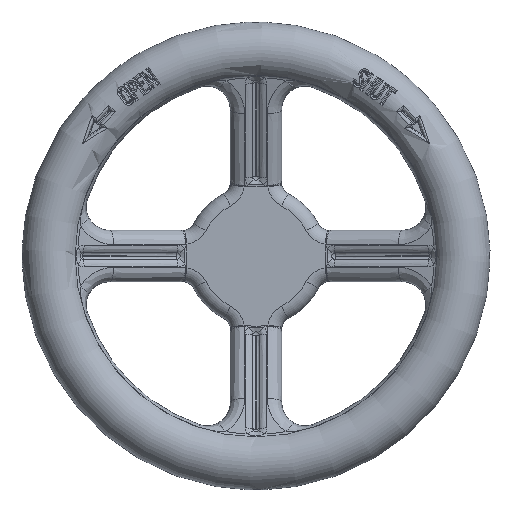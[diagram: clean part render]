
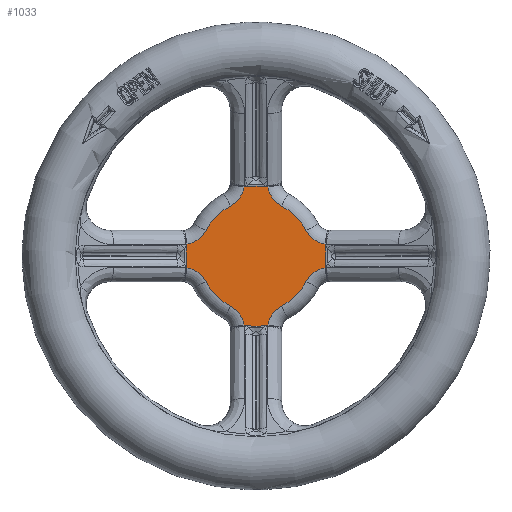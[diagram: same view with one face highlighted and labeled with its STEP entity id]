
A CAD part, top view. The second image highlights one B-rep face of the part: STEP entity #1033.
In plain terms, the highlighted planar face has unit normal (0, 0, 1).
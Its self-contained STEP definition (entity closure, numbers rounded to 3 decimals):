
#1033 = ADVANCED_FACE( '', ( #2393 ), #2394, .T. );
#2393 = FACE_OUTER_BOUND( '', #18667, .T. );
#2394 = PLANE( '', #18668 );
#18667 = EDGE_LOOP( '', ( #41906, #41907, #41908, #41909, #41910, #41911, #41912, #41913, #41914, #41915, #41916, #41917, #41918, #41919, #41920, #41921 ) );
#18668 = AXIS2_PLACEMENT_3D( '', #41922, #41923, #41924 );
#41906 = ORIENTED_EDGE( '', *, *, #45457, .T. );
#41907 = ORIENTED_EDGE( '', *, *, #45369, .T. );
#41908 = ORIENTED_EDGE( '', *, *, #44575, .T. );
#41909 = ORIENTED_EDGE( '', *, *, #44952, .T. );
#41910 = ORIENTED_EDGE( '', *, *, #45458, .T. );
#41911 = ORIENTED_EDGE( '', *, *, #45459, .T. );
#41912 = ORIENTED_EDGE( '', *, *, #44747, .T. );
#41913 = ORIENTED_EDGE( '', *, *, #44502, .T. );
#41914 = ORIENTED_EDGE( '', *, *, #45460, .T. );
#41915 = ORIENTED_EDGE( '', *, *, #45461, .T. );
#41916 = ORIENTED_EDGE( '', *, *, #45462, .T. );
#41917 = ORIENTED_EDGE( '', *, *, #45463, .T. );
#41918 = ORIENTED_EDGE( '', *, *, #45464, .T. );
#41919 = ORIENTED_EDGE( '', *, *, #45465, .T. );
#41920 = ORIENTED_EDGE( '', *, *, #45466, .T. );
#41921 = ORIENTED_EDGE( '', *, *, #45349, .T. );
#41922 = CARTESIAN_POINT( '', ( 0., 0., 2. ) );
#41923 = DIRECTION( '', ( 0., 0., 1. ) );
#41924 = DIRECTION( '', ( -1., 0., 0. ) );
#44502 = EDGE_CURVE( '', #46625, #46630, #46632, .F. );
#44575 = EDGE_CURVE( '', #46765, #46763, #46766, .T. );
#44747 = EDGE_CURVE( '', #47052, #46625, #47055, .T. );
#44952 = EDGE_CURVE( '', #46763, #47382, #47384, .F. );
#45349 = EDGE_CURVE( '', #47970, #47403, #47974, .F. );
#45369 = EDGE_CURVE( '', #48000, #46765, #48001, .F. );
#45457 = EDGE_CURVE( '', #47403, #48000, #48123, .T. );
#45458 = EDGE_CURVE( '', #47382, #48124, #48125, .T. );
#45459 = EDGE_CURVE( '', #48124, #47052, #48126, .F. );
#45460 = EDGE_CURVE( '', #46630, #47451, #48127, .T. );
#45461 = EDGE_CURVE( '', #47451, #48128, #48129, .F. );
#45462 = EDGE_CURVE( '', #48128, #48130, #48131, .T. );
#45463 = EDGE_CURVE( '', #48130, #48132, #48133, .F. );
#45464 = EDGE_CURVE( '', #48132, #48134, #48135, .T. );
#45465 = EDGE_CURVE( '', #48134, #48136, #48137, .F. );
#45466 = EDGE_CURVE( '', #48136, #47970, #48138, .T. );
#46625 = VERTEX_POINT( '', #51447 );
#46630 = VERTEX_POINT( '', #51452 );
#46632 = CIRCLE( '', #51454, 11. );
#46763 = VERTEX_POINT( '', #52472 );
#46765 = VERTEX_POINT( '', #52474 );
#46766 = CIRCLE( '', #52475, 24. );
#47052 = VERTEX_POINT( '', #54922 );
#47055 = CIRCLE( '', #54925, 24. );
#47382 = VERTEX_POINT( '', #57385 );
#47384 = CIRCLE( '', #57387, 11. );
#47403 = VERTEX_POINT( '', #57530 );
#47451 = VERTEX_POINT( '', #57780 );
#47970 = VERTEX_POINT( '', #61440 );
#47974 = CIRCLE( '', #61444, 11. );
#48000 = VERTEX_POINT( '', #61572 );
#48001 = CIRCLE( '', #61573, 11. );
#48123 = CIRCLE( '', #62229, 29.95 );
#48124 = VERTEX_POINT( '', #62230 );
#48125 = CIRCLE( '', #62231, 29.95 );
#48126 = CIRCLE( '', #62232, 11. );
#48127 = CIRCLE( '', #62233, 29.95 );
#48128 = VERTEX_POINT( '', #62234 );
#48129 = CIRCLE( '', #62235, 11. );
#48130 = VERTEX_POINT( '', #62236 );
#48131 = CIRCLE( '', #62237, 24. );
#48132 = VERTEX_POINT( '', #62238 );
#48133 = CIRCLE( '', #62239, 11. );
#48134 = VERTEX_POINT( '', #62240 );
#48135 = CIRCLE( '', #62241, 29.95 );
#48136 = VERTEX_POINT( '', #62242 );
#48137 = CIRCLE( '', #62243, 11. );
#48138 = CIRCLE( '', #62244, 24. );
#51447 = CARTESIAN_POINT( '', ( -21.345, 10.971, 2. ) );
#51452 = CARTESIAN_POINT( '', ( -29.509, 5.12, 2. ) );
#51454 = AXIS2_PLACEMENT_3D( '', #67929, #67930, #67931 );
#52472 = CARTESIAN_POINT( '', ( 10.971, 21.345, 2. ) );
#52474 = CARTESIAN_POINT( '', ( 21.345, 10.971, 2. ) );
#52475 = AXIS2_PLACEMENT_3D( '', #67998, #67999, #68000 );
#54922 = CARTESIAN_POINT( '', ( -10.971, 21.345, 2. ) );
#54925 = AXIS2_PLACEMENT_3D( '', #68101, #68102, #68103 );
#57385 = CARTESIAN_POINT( '', ( 5.12, 29.509, 2. ) );
#57387 = AXIS2_PLACEMENT_3D( '', #68277, #68278, #68279 );
#57530 = CARTESIAN_POINT( '', ( 29.509, -5.12, 2. ) );
#57780 = CARTESIAN_POINT( '', ( -29.509, -5.12, 2. ) );
#61440 = CARTESIAN_POINT( '', ( 21.345, -10.971, 2. ) );
#61444 = AXIS2_PLACEMENT_3D( '', #68599, #68600, #68601 );
#61572 = CARTESIAN_POINT( '', ( 29.509, 5.12, 2. ) );
#61573 = AXIS2_PLACEMENT_3D( '', #68617, #68618, #68619 );
#62229 = AXIS2_PLACEMENT_3D( '', #68683, #68684, #68685 );
#62230 = CARTESIAN_POINT( '', ( -5.12, 29.509, 2. ) );
#62231 = AXIS2_PLACEMENT_3D( '', #68686, #68687, #68688 );
#62232 = AXIS2_PLACEMENT_3D( '', #68689, #68690, #68691 );
#62233 = AXIS2_PLACEMENT_3D( '', #68692, #68693, #68694 );
#62234 = CARTESIAN_POINT( '', ( -21.345, -10.971, 2. ) );
#62235 = AXIS2_PLACEMENT_3D( '', #68695, #68696, #68697 );
#62236 = CARTESIAN_POINT( '', ( -10.971, -21.345, 2. ) );
#62237 = AXIS2_PLACEMENT_3D( '', #68698, #68699, #68700 );
#62238 = CARTESIAN_POINT( '', ( -5.12, -29.509, 2. ) );
#62239 = AXIS2_PLACEMENT_3D( '', #68701, #68702, #68703 );
#62240 = CARTESIAN_POINT( '', ( 5.12, -29.509, 2. ) );
#62241 = AXIS2_PLACEMENT_3D( '', #68704, #68705, #68706 );
#62242 = CARTESIAN_POINT( '', ( 10.971, -21.345, 2. ) );
#62243 = AXIS2_PLACEMENT_3D( '', #68707, #68708, #68709 );
#62244 = AXIS2_PLACEMENT_3D( '', #68710, #68711, #68712 );
#67929 = CARTESIAN_POINT( '', ( -31.129, 16., 2. ) );
#67930 = DIRECTION( '', ( 0., 0., 1. ) );
#67931 = DIRECTION( '', ( 1., 0., 0. ) );
#67998 = CARTESIAN_POINT( '', ( 0., 0., 2. ) );
#67999 = DIRECTION( '', ( 0., 0., 1. ) );
#68000 = DIRECTION( '', ( 1., 0., 0. ) );
#68101 = CARTESIAN_POINT( '', ( 0., 0., 2. ) );
#68102 = DIRECTION( '', ( 0., 0., 1. ) );
#68103 = DIRECTION( '', ( 1., 0., 0. ) );
#68277 = CARTESIAN_POINT( '', ( 16., 31.129, 2. ) );
#68278 = DIRECTION( '', ( 0., 0., 1. ) );
#68279 = DIRECTION( '', ( 1., 0., 0. ) );
#68599 = CARTESIAN_POINT( '', ( 31.129, -16., 2. ) );
#68600 = DIRECTION( '', ( 0., 0., 1. ) );
#68601 = DIRECTION( '', ( 1., 0., 0. ) );
#68617 = CARTESIAN_POINT( '', ( 31.129, 16., 2. ) );
#68618 = DIRECTION( '', ( 0., 0., 1. ) );
#68619 = DIRECTION( '', ( 1., 0., 0. ) );
#68683 = CARTESIAN_POINT( '', ( 0., 0., 2. ) );
#68684 = DIRECTION( '', ( 0., 0., 1. ) );
#68685 = DIRECTION( '', ( 1., 0., 0. ) );
#68686 = CARTESIAN_POINT( '', ( 0., 0., 2. ) );
#68687 = DIRECTION( '', ( 0., 0., 1. ) );
#68688 = DIRECTION( '', ( 1., 0., 0. ) );
#68689 = CARTESIAN_POINT( '', ( -16., 31.129, 2. ) );
#68690 = DIRECTION( '', ( 0., 0., 1. ) );
#68691 = DIRECTION( '', ( 1., 0., 0. ) );
#68692 = CARTESIAN_POINT( '', ( 0., 0., 2. ) );
#68693 = DIRECTION( '', ( 0., 0., 1. ) );
#68694 = DIRECTION( '', ( 1., 0., 0. ) );
#68695 = CARTESIAN_POINT( '', ( -31.129, -16., 2. ) );
#68696 = DIRECTION( '', ( 0., 0., 1. ) );
#68697 = DIRECTION( '', ( 1., 0., 0. ) );
#68698 = CARTESIAN_POINT( '', ( 0., 0., 2. ) );
#68699 = DIRECTION( '', ( 0., 0., 1. ) );
#68700 = DIRECTION( '', ( 1., 0., 0. ) );
#68701 = CARTESIAN_POINT( '', ( -16., -31.129, 2. ) );
#68702 = DIRECTION( '', ( 0., 0., 1. ) );
#68703 = DIRECTION( '', ( 1., 0., 0. ) );
#68704 = CARTESIAN_POINT( '', ( 0., 0., 2. ) );
#68705 = DIRECTION( '', ( 0., 0., 1. ) );
#68706 = DIRECTION( '', ( 1., 0., 0. ) );
#68707 = CARTESIAN_POINT( '', ( 16., -31.129, 2. ) );
#68708 = DIRECTION( '', ( 0., 0., 1. ) );
#68709 = DIRECTION( '', ( 1., 0., 0. ) );
#68710 = CARTESIAN_POINT( '', ( 0., 0., 2. ) );
#68711 = DIRECTION( '', ( 0., 0., 1. ) );
#68712 = DIRECTION( '', ( 1., 0., 0. ) );
